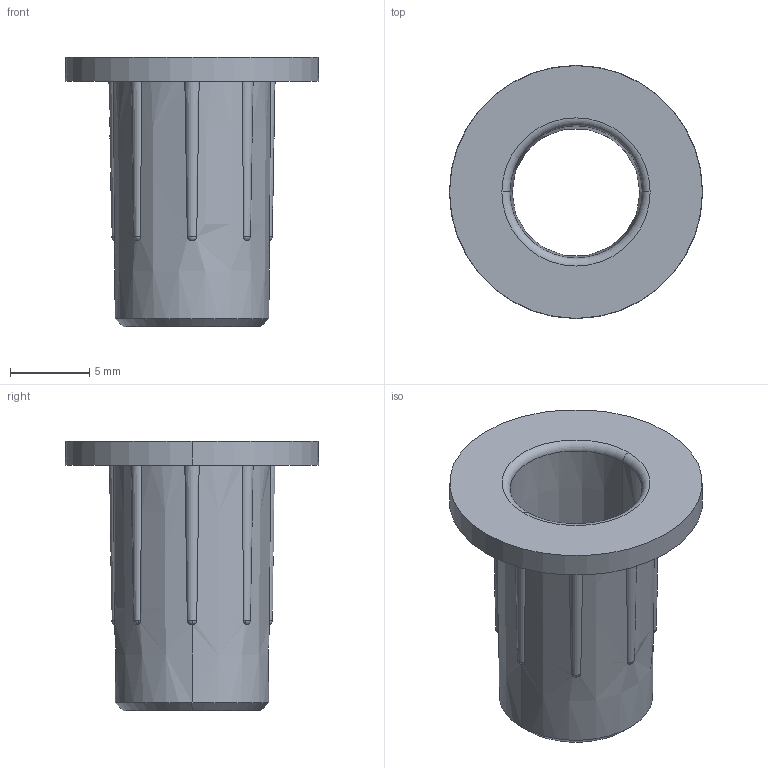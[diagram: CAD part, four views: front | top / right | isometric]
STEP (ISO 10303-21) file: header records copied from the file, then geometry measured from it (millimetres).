
FILE_DESCRIPTION (( 'STEP AP203' ), '1' );
FILE_NAME ('013.100.055.STEP', '2022-03-30T16:00:26', ( '' ), ( '' ), 'SwSTEP 2.0', 'SolidWorks 2021', '' );
FILE_SCHEMA (( 'CONFIG_CONTROL_DESIGN' ));
Length unit declared in the file: millimetre
Products named in the file (1): 013.100.055
Bounding box: 16 x 16 x 17 mm (x, y, z)
Volume: 579.8 mm3; surface area: 1283.5 mm2
Topology: 1 solids, 1 shells, 35 faces, 90 edges, 58 vertices
Faces by surface type: torus 16, cone 16, plane 3
Entity records: 1307 total; most frequent: CARTESIAN_POINT 382, DIRECTION 184, ORIENTED_EDGE 180, EDGE_CURVE 90, AXIS2_PLACEMENT_3D 88, VERTEX_POINT 58, CIRCLE 52, EDGE_LOOP 38
